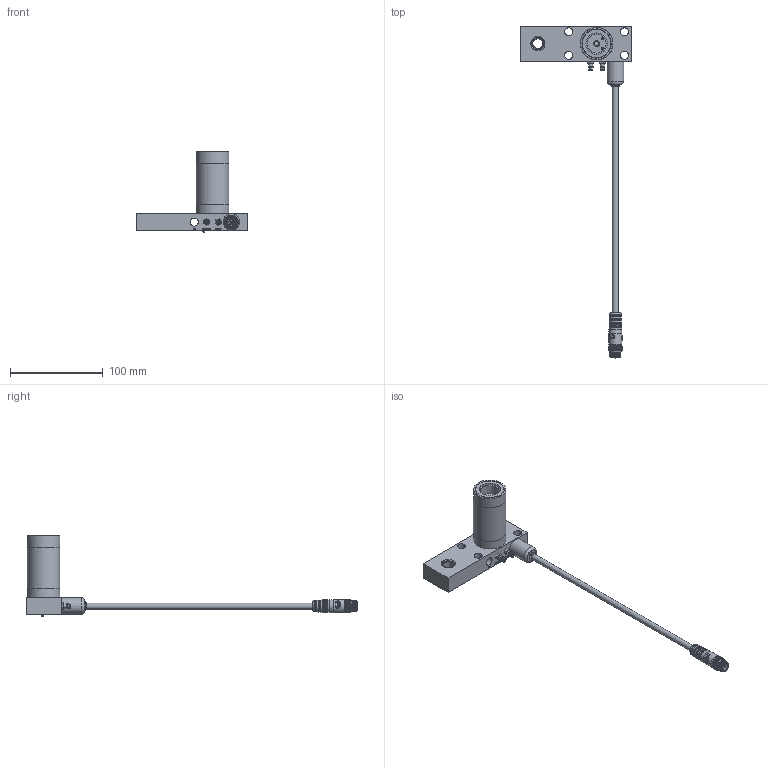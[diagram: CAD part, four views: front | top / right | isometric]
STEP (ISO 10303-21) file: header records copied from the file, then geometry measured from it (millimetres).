
FILE_DESCRIPTION(/* description */ ('ASSY,BODY,VF,IA,SXJR3,NHP_0002708500'),/* implementation_level */ '2;1');
FILE_NAME(/* name */ 'X:\ASSY,BODY,VF,IA,SXJR3,NHP_0002708500.stp',/* time_stamp */ '2021-07-07T13:09:54-04:00',/* author */ ('Simon.Britton'),/* organization */ (''),/* preprocessor_version */ 'ST-DEVELOPER v17',/* originating_system */ 'Autodesk Inventor 2019',/* authorisation */ '');
FILE_SCHEMA (('AUTOMOTIVE_DESIGN { 1 0 10303 214 3 1 1 }'));
Length unit declared in the file: millimetre
Products named in the file (1): ASSY,BODY,VF,IA,SXJR3,NHP_0002708500
Bounding box: 120.65 x 358.79 x 87.37 mm (x, y, z)
Volume: 131813 mm3; surface area: 67579.8 mm2
Topology: 1 solids, 72 shells, 4054 faces, 9593 edges, 5771 vertices
Faces by surface type: bspline 2515, plane 753, cylinder 685, cone 65, torus 23, sphere 13
Full cylindrical faces by diameter (mm): 1 x5, 1.05 x5, 1.25 x10, 1.35 x5, 1.6 x10, 1.8 x5, 1.85 x5, 2 x1, 2.381 x4, 2.464 x1, 2.7 x1, 2.997 x6, 3 x1, 3.81 x2, 3.962 x6, 4.216 x4, 4.366 x1, 4.496 x6, 4.763 x3, 4.8 x3, 6.35 x3, 6.4 x1, 7 x1, 8.731 x4, 8.738 x4, 9.4 x1, 9.7 x2, 10.592 x1, 10.6 x2, 10.9 x1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
Entity records: 258786 total; most frequent: CARTESIAN_POINT 171866, ORIENTED_EDGE 19148, DIRECTION 13902, EDGE_CURVE 9574, AXIS2_PLACEMENT_3D 5878, VERTEX_POINT 5769, CIRCLE 4262, EDGE_LOOP 4246
